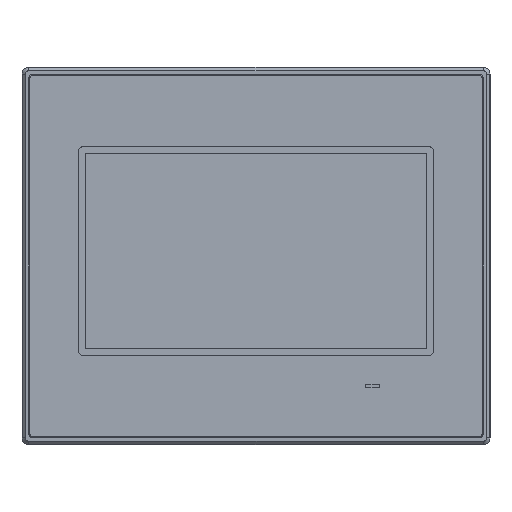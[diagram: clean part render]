
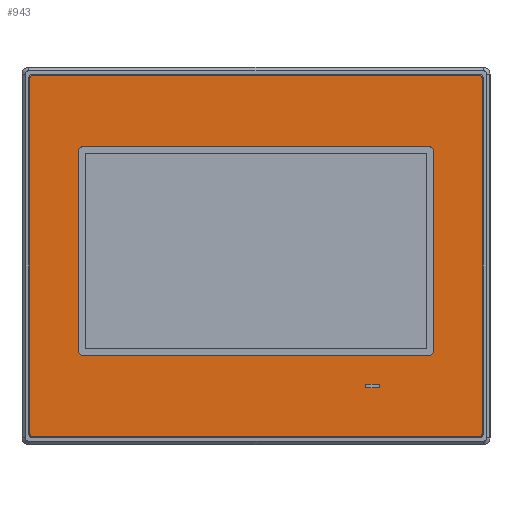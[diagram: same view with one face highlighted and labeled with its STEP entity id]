
A CAD part, top view. The second image highlights one B-rep face of the part: STEP entity #943.
In plain terms, the highlighted planar face has unit normal (0, 0, 1).
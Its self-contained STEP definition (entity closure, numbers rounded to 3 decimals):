
#5=CARTESIAN_POINT('',(-64.,51.,5.));
#6=DIRECTION('',(0.,0.,-1.));
#7=DIRECTION('',(-1.,0.,0.));
#8=AXIS2_PLACEMENT_3D('',#5,#6,#7);
#10=DIRECTION('',(1.,0.,0.));
#11=VECTOR('',#10,128.);
#12=CARTESIAN_POINT('',(-64.,52.,5.));
#13=LINE('',#12,#11);
#14=CARTESIAN_POINT('',(64.,51.,5.));
#15=DIRECTION('',(0.,0.,-1.));
#16=DIRECTION('',(0.,1.,0.));
#17=AXIS2_PLACEMENT_3D('',#14,#15,#16);
#19=DIRECTION('',(0.,-1.,0.));
#20=VECTOR('',#19,102.);
#21=CARTESIAN_POINT('',(65.,51.,5.));
#22=LINE('',#21,#20);
#23=CARTESIAN_POINT('',(64.,-51.,5.));
#24=DIRECTION('',(0.,0.,-1.));
#25=DIRECTION('',(1.,0.,0.));
#26=AXIS2_PLACEMENT_3D('',#23,#24,#25);
#28=DIRECTION('',(-1.,0.,0.));
#29=VECTOR('',#28,128.);
#30=CARTESIAN_POINT('',(64.,-52.,5.));
#31=LINE('',#30,#29);
#32=CARTESIAN_POINT('',(-64.,-51.,5.));
#33=DIRECTION('',(0.,0.,-1.));
#34=DIRECTION('',(0.,-1.,0.));
#35=AXIS2_PLACEMENT_3D('',#32,#33,#34);
#37=DIRECTION('',(0.,1.,0.));
#38=VECTOR('',#37,102.);
#39=CARTESIAN_POINT('',(-65.,-51.,5.));
#40=LINE('',#39,#38);
#41=CARTESIAN_POINT('',(49.5,30.,5.));
#42=DIRECTION('',(0.,0.,1.));
#43=DIRECTION('',(1.,0.,0.));
#44=AXIS2_PLACEMENT_3D('',#41,#42,#43);
#46=CARTESIAN_POINT('',(-49.5,30.,5.));
#47=DIRECTION('',(0.,0.,1.));
#48=DIRECTION('',(0.,1.,0.));
#49=AXIS2_PLACEMENT_3D('',#46,#47,#48);
#51=CARTESIAN_POINT('',(-49.5,-27.2,5.));
#52=DIRECTION('',(0.,0.,1.));
#53=DIRECTION('',(-1.,0.,0.));
#54=AXIS2_PLACEMENT_3D('',#51,#52,#53);
#56=CARTESIAN_POINT('',(49.5,-27.2,5.));
#57=DIRECTION('',(0.,0.,1.));
#58=DIRECTION('',(0.,-1.,0.));
#59=AXIS2_PLACEMENT_3D('',#56,#57,#58);
#437=DIRECTION('',(1.,0.,0.));
#438=VECTOR('',#437,4.);
#439=CARTESIAN_POINT('',(31.5,-36.8,5.));
#440=LINE('',#439,#438);
#441=DIRECTION('',(0.,-1.,0.));
#442=VECTOR('',#441,1.);
#443=CARTESIAN_POINT('',(35.5,-36.8,5.));
#444=LINE('',#443,#442);
#449=DIRECTION('',(-1.,0.,0.));
#450=VECTOR('',#449,4.);
#451=CARTESIAN_POINT('',(35.5,-37.8,5.));
#452=LINE('',#451,#450);
#457=DIRECTION('',(0.,1.,0.));
#458=VECTOR('',#457,1.);
#459=CARTESIAN_POINT('',(31.5,-37.8,5.));
#460=LINE('',#459,#458);
#485=DIRECTION('',(0.,-1.,0.));
#486=VECTOR('',#485,57.2);
#487=CARTESIAN_POINT('',(51.,30.,5.));
#488=LINE('',#487,#486);
#549=DIRECTION('',(1.,0.,0.));
#550=VECTOR('',#549,99.);
#551=CARTESIAN_POINT('',(-49.5,31.5,5.));
#552=LINE('',#551,#550);
#565=DIRECTION('',(0.,1.,0.));
#566=VECTOR('',#565,57.2);
#567=CARTESIAN_POINT('',(-51.,-27.2,5.));
#568=LINE('',#567,#566);
#577=DIRECTION('',(-1.,0.,0.));
#578=VECTOR('',#577,99.);
#579=CARTESIAN_POINT('',(49.5,-28.7,5.));
#580=LINE('',#579,#578);
#749=CARTESIAN_POINT('',(-65.,51.,5.));
#750=CARTESIAN_POINT('',(-64.,52.,5.));
#751=VERTEX_POINT('',#749);
#752=VERTEX_POINT('',#750);
#753=CARTESIAN_POINT('',(64.,52.,5.));
#754=VERTEX_POINT('',#753);
#755=CARTESIAN_POINT('',(65.,51.,5.));
#756=VERTEX_POINT('',#755);
#757=CARTESIAN_POINT('',(65.,-51.,5.));
#758=VERTEX_POINT('',#757);
#759=CARTESIAN_POINT('',(64.,-52.,5.));
#760=VERTEX_POINT('',#759);
#761=CARTESIAN_POINT('',(-64.,-52.,5.));
#762=VERTEX_POINT('',#761);
#763=CARTESIAN_POINT('',(-65.,-51.,5.));
#764=VERTEX_POINT('',#763);
#765=CARTESIAN_POINT('',(31.5,-36.8,5.));
#766=CARTESIAN_POINT('',(35.5,-36.8,5.));
#767=VERTEX_POINT('',#765);
#768=VERTEX_POINT('',#766);
#769=CARTESIAN_POINT('',(31.5,-37.8,5.));
#770=VERTEX_POINT('',#769);
#771=CARTESIAN_POINT('',(35.5,-37.8,5.));
#772=VERTEX_POINT('',#771);
#773=CARTESIAN_POINT('',(51.,30.,5.));
#774=CARTESIAN_POINT('',(49.5,31.5,5.));
#775=VERTEX_POINT('',#773);
#776=VERTEX_POINT('',#774);
#777=CARTESIAN_POINT('',(-49.5,31.5,5.));
#778=VERTEX_POINT('',#777);
#779=CARTESIAN_POINT('',(-51.,30.,5.));
#780=VERTEX_POINT('',#779);
#781=CARTESIAN_POINT('',(-51.,-27.2,5.));
#782=VERTEX_POINT('',#781);
#783=CARTESIAN_POINT('',(-49.5,-28.7,5.));
#784=VERTEX_POINT('',#783);
#785=CARTESIAN_POINT('',(49.5,-28.7,5.));
#786=VERTEX_POINT('',#785);
#787=CARTESIAN_POINT('',(51.,-27.2,5.));
#788=VERTEX_POINT('',#787);
#893=CARTESIAN_POINT('',(0.,0.,5.));
#894=DIRECTION('',(0.,0.,1.));
#895=DIRECTION('',(1.,0.,0.));
#896=AXIS2_PLACEMENT_3D('',#893,#894,#895);
#897=PLANE('',#896);
#899=ORIENTED_EDGE('',*,*,#898,.T.);
#901=ORIENTED_EDGE('',*,*,#900,.T.);
#903=ORIENTED_EDGE('',*,*,#902,.T.);
#905=ORIENTED_EDGE('',*,*,#904,.T.);
#907=ORIENTED_EDGE('',*,*,#906,.T.);
#909=ORIENTED_EDGE('',*,*,#908,.T.);
#911=ORIENTED_EDGE('',*,*,#910,.T.);
#913=ORIENTED_EDGE('',*,*,#912,.T.);
#914=EDGE_LOOP('',(#899,#901,#903,#905,#907,#909,#911,#913));
#915=FACE_OUTER_BOUND('',#914,.F.);
#917=ORIENTED_EDGE('',*,*,#916,.F.);
#919=ORIENTED_EDGE('',*,*,#918,.F.);
#921=ORIENTED_EDGE('',*,*,#920,.F.);
#923=ORIENTED_EDGE('',*,*,#922,.F.);
#924=EDGE_LOOP('',(#917,#919,#921,#923));
#925=FACE_BOUND('',#924,.F.);
#927=ORIENTED_EDGE('',*,*,#926,.T.);
#929=ORIENTED_EDGE('',*,*,#928,.F.);
#931=ORIENTED_EDGE('',*,*,#930,.T.);
#933=ORIENTED_EDGE('',*,*,#932,.F.);
#935=ORIENTED_EDGE('',*,*,#934,.T.);
#937=ORIENTED_EDGE('',*,*,#936,.F.);
#938=ORIENTED_EDGE('',*,*,#882,.T.);
#940=ORIENTED_EDGE('',*,*,#939,.F.);
#941=EDGE_LOOP('',(#927,#929,#931,#933,#935,#937,#938,#940));
#942=FACE_BOUND('',#941,.F.);
#943=ADVANCED_FACE('',(#915,#925,#942),#897,.T.);
#9=CIRCLE('',#8,1.);
#18=CIRCLE('',#17,1.);
#27=CIRCLE('',#26,1.);
#36=CIRCLE('',#35,1.);
#45=CIRCLE('',#44,1.5);
#50=CIRCLE('',#49,1.5);
#55=CIRCLE('',#54,1.5);
#60=CIRCLE('',#59,1.5);
#882=EDGE_CURVE('',#786,#788,#60,.T.);
#898=EDGE_CURVE('',#751,#752,#9,.T.);
#900=EDGE_CURVE('',#752,#754,#13,.T.);
#902=EDGE_CURVE('',#754,#756,#18,.T.);
#904=EDGE_CURVE('',#756,#758,#22,.T.);
#906=EDGE_CURVE('',#758,#760,#27,.T.);
#908=EDGE_CURVE('',#760,#762,#31,.T.);
#910=EDGE_CURVE('',#762,#764,#36,.T.);
#912=EDGE_CURVE('',#764,#751,#40,.T.);
#916=EDGE_CURVE('',#767,#768,#440,.T.);
#918=EDGE_CURVE('',#770,#767,#460,.T.);
#920=EDGE_CURVE('',#772,#770,#452,.T.);
#922=EDGE_CURVE('',#768,#772,#444,.T.);
#926=EDGE_CURVE('',#775,#776,#45,.T.);
#928=EDGE_CURVE('',#778,#776,#552,.T.);
#930=EDGE_CURVE('',#778,#780,#50,.T.);
#932=EDGE_CURVE('',#782,#780,#568,.T.);
#934=EDGE_CURVE('',#782,#784,#55,.T.);
#936=EDGE_CURVE('',#786,#784,#580,.T.);
#939=EDGE_CURVE('',#775,#788,#488,.T.);
